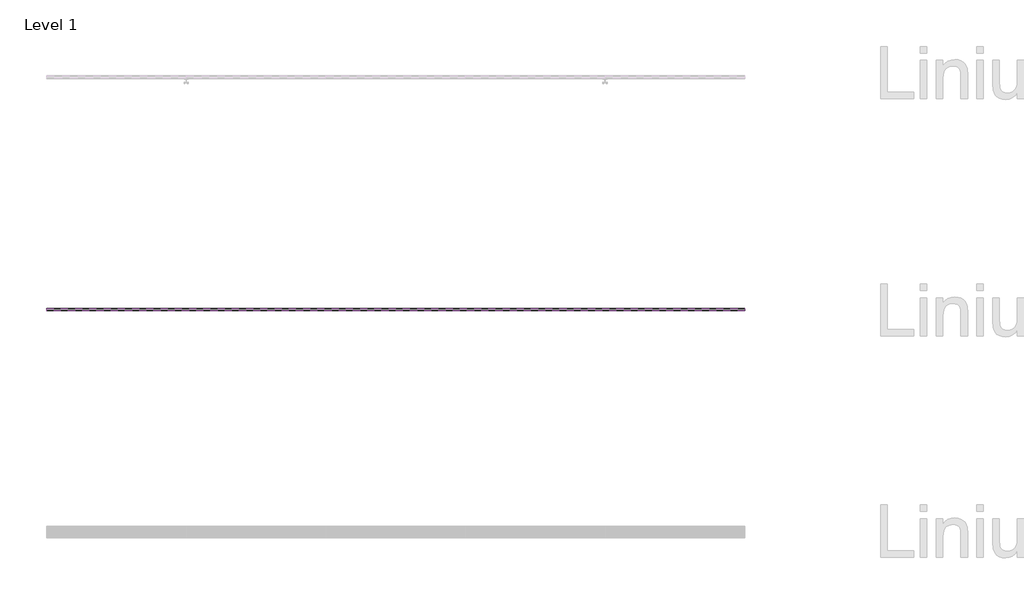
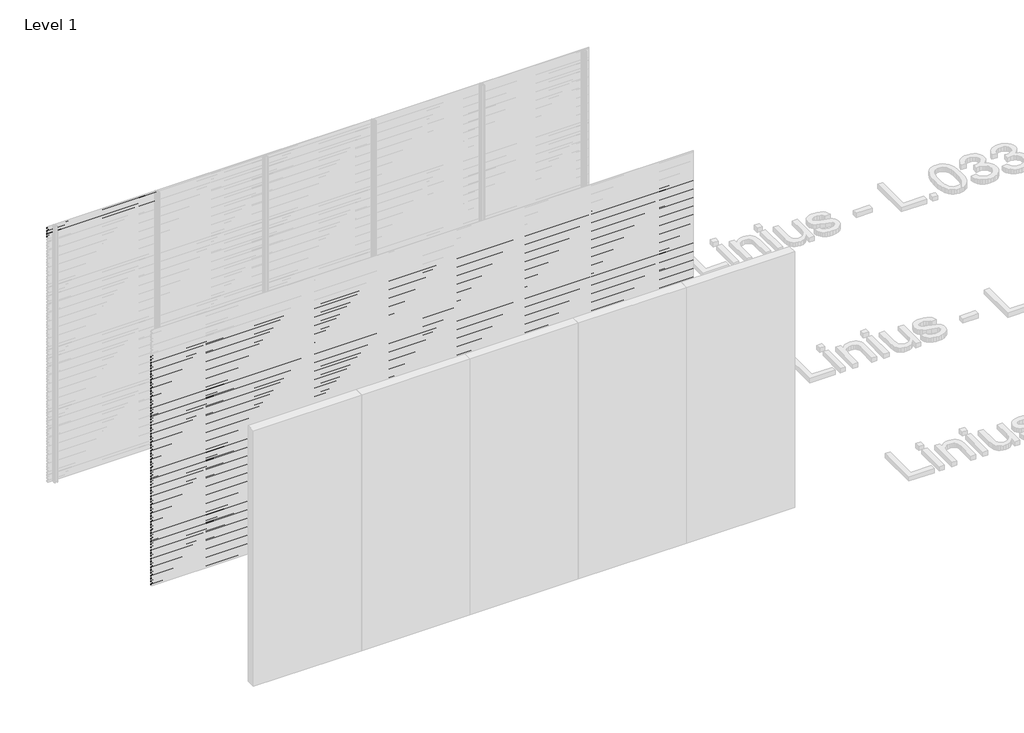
# One storey, part 30 of 507: 85 proxies.
"""IFC4 building model written with IfcOpenShell, lengths in millimetres."""

from ifc_helpers import new_model, si_unit, frame, origin, place, context, project, spatial, polyline, outline, extrude, element, save

model = new_model("IFC4")

# Units and contexts
model_context = context("Model", 3, world=origin())
ifc_project = project(units=[si_unit("LENGTHUNIT", "METRE", prefix="MILLI")], contexts=[model_context])

# Site, building, storey
site = spatial("IfcSite", under=ifc_project)
building = spatial("IfcBuilding", under=site)
storey = spatial("IfcBuildingStorey", under=building, Name="Level 1", Elevation=0.0)

# Proxies
placement = place(None, origin())
element("IfcBuildingElementProxy", 1, Name="Wall Sweeps", at=placement, inside=storey, context=model_context, shape_type="SweptSolid", body=[
    extrude(outline(polyline([(21503.4540136, 2973.0), (21503.4540136, 2959.5), (21502.2040136, 2960.2216933), (21502.2040136, 2972.2782281), (21483.0540136, 2983.3345698), (21483.0540136, 2997.0), (21484.3040136, 2997.0), (21484.3040136, 2984.0562577), (21503.4540136, 2973.0)])), frame((44966.6208097, 0.0, 0.0), z_axis=(1.0, 0.0, 0.0), x_axis=(0.0, 1.0, 0.0)), (0.0, 0.0, 1.0), 1200.0000002),
])
element("IfcBuildingElementProxy", 2, Name="Wall Sweeps", at=placement, inside=storey, context=model_context, shape_type="SweptSolid", body=[
    extrude(outline(polyline([(21503.4540136, 2939.7), (21503.4540136, 2926.2), (21502.2040136, 2926.9216933), (21502.2040136, 2938.9782281), (21483.0540136, 2950.0345698), (21483.0540136, 2963.7), (21484.3040136, 2963.7), (21484.3040136, 2950.7562577), (21503.4540136, 2939.7)])), frame((44966.6208097, 0.0, 0.0), z_axis=(1.0, 0.0, 0.0), x_axis=(0.0, 1.0, 0.0)), (0.0, 0.0, 1.0), 1200.0000002),
])
element("IfcBuildingElementProxy", 3, Name="Wall Sweeps", at=placement, inside=storey, context=model_context, shape_type="SweptSolid", body=[
    extrude(outline(polyline([(21503.4540136, 2906.4), (21503.4540136, 2892.9), (21502.2040136, 2893.6216933), (21502.2040136, 2905.6782281), (21483.0540136, 2916.7345698), (21483.0540136, 2930.4), (21484.3040136, 2930.4), (21484.3040136, 2917.4562577), (21503.4540136, 2906.4)])), frame((44966.6208097, 0.0, 0.0), z_axis=(1.0, 0.0, 0.0), x_axis=(0.0, 1.0, 0.0)), (0.0, 0.0, 1.0), 1200.0000002),
])
element("IfcBuildingElementProxy", 4, Name="Wall Sweeps", at=placement, inside=storey, context=model_context, shape_type="SweptSolid", body=[
    extrude(outline(polyline([(21503.4540136, 2873.1), (21503.4540136, 2859.6), (21502.2040136, 2860.3216933), (21502.2040136, 2872.3782281), (21483.0540136, 2883.4345698), (21483.0540136, 2897.1), (21484.3040136, 2897.1), (21484.3040136, 2884.1562577), (21503.4540136, 2873.1)])), frame((44966.6208097, 0.0, 0.0), z_axis=(1.0, 0.0, 0.0), x_axis=(0.0, 1.0, 0.0)), (0.0, 0.0, 1.0), 1200.0000002),
])
element("IfcBuildingElementProxy", 5, Name="Wall Sweeps", at=placement, inside=storey, context=model_context, shape_type="SweptSolid", body=[
    extrude(outline(polyline([(19503.4540136, 2673.3), (19503.4540136, 2659.8), (19502.2040136, 2660.5216933), (19502.2040136, 2672.5782281), (19483.0540136, 2683.6345698), (19483.0540136, 2697.3), (19484.3040136, 2697.3), (19484.3040136, 2684.3562577), (19503.4540136, 2673.3)])), frame((44966.6208097, 0.0, 0.0), z_axis=(1.0, 0.0, 0.0), x_axis=(0.0, 1.0, 0.0)), (0.0, 0.0, 1.0), 6000.0),
])
element("IfcBuildingElementProxy", 6, Name="Wall Sweeps", at=placement, inside=storey, context=model_context, shape_type="SweptSolid", body=[
    extrude(outline(polyline([(19503.4540136, 2640.0), (19503.4540136, 2626.5), (19502.2040136, 2627.2216933), (19502.2040136, 2639.2782281), (19483.0540136, 2650.3345698), (19483.0540136, 2664.0), (19484.3040136, 2664.0), (19484.3040136, 2651.0562577), (19503.4540136, 2640.0)])), frame((44966.6208097, 0.0, 0.0), z_axis=(1.0, 0.0, 0.0), x_axis=(0.0, 1.0, 0.0)), (0.0, 0.0, 1.0), 6000.0),
])
element("IfcBuildingElementProxy", 7, Name="Wall Sweeps", at=placement, inside=storey, context=model_context, shape_type="SweptSolid", body=[
    extrude(outline(polyline([(19503.4540136, 2606.7), (19503.4540136, 2593.2), (19502.2040136, 2593.9216933), (19502.2040136, 2605.9782281), (19483.0540136, 2617.0345698), (19483.0540136, 2630.7), (19484.3040136, 2630.7), (19484.3040136, 2617.7562577), (19503.4540136, 2606.7)])), frame((44966.6208097, 0.0, 0.0), z_axis=(1.0, 0.0, 0.0), x_axis=(0.0, 1.0, 0.0)), (0.0, 0.0, 1.0), 6000.0),
])
element("IfcBuildingElementProxy", 8, Name="Wall Sweeps", at=placement, inside=storey, context=model_context, shape_type="SweptSolid", body=[
    extrude(outline(polyline([(19503.4540136, 2573.4), (19503.4540136, 2559.9), (19502.2040136, 2560.6216933), (19502.2040136, 2572.6782281), (19483.0540136, 2583.7345698), (19483.0540136, 2597.4), (19484.3040136, 2597.4), (19484.3040136, 2584.4562577), (19503.4540136, 2573.4)])), frame((44966.6208097, 0.0, 0.0), z_axis=(1.0, 0.0, 0.0), x_axis=(0.0, 1.0, 0.0)), (0.0, 0.0, 1.0), 6000.0),
])
element("IfcBuildingElementProxy", 9, Name="Wall Sweeps", at=placement, inside=storey, context=model_context, shape_type="SweptSolid", body=[
    extrude(outline(polyline([(19503.4540136, 2540.1), (19503.4540136, 2526.6), (19502.2040136, 2527.3216933), (19502.2040136, 2539.3782281), (19483.0540136, 2550.4345698), (19483.0540136, 2564.1), (19484.3040136, 2564.1), (19484.3040136, 2551.1562577), (19503.4540136, 2540.1)])), frame((44966.6208097, 0.0, 0.0), z_axis=(1.0, 0.0, 0.0), x_axis=(0.0, 1.0, 0.0)), (0.0, 0.0, 1.0), 6000.0),
])
element("IfcBuildingElementProxy", 10, Name="Wall Sweeps", at=placement, inside=storey, context=model_context, shape_type="SweptSolid", body=[
    extrude(outline(polyline([(19503.4540136, 2506.8), (19503.4540136, 2493.3), (19502.2040136, 2494.0216933), (19502.2040136, 2506.0782281), (19483.0540136, 2517.1345698), (19483.0540136, 2530.8), (19484.3040136, 2530.8), (19484.3040136, 2517.8562577), (19503.4540136, 2506.8)])), frame((44966.6208097, 0.0, 0.0), z_axis=(1.0, 0.0, 0.0), x_axis=(0.0, 1.0, 0.0)), (0.0, 0.0, 1.0), 6000.0),
])
element("IfcBuildingElementProxy", 11, Name="Wall Sweeps", at=placement, inside=storey, context=model_context, shape_type="SweptSolid", body=[
    extrude(outline(polyline([(19503.4540136, 2473.5), (19503.4540136, 2460.0), (19502.2040136, 2460.7216933), (19502.2040136, 2472.7782281), (19483.0540136, 2483.8345698), (19483.0540136, 2497.5), (19484.3040136, 2497.5), (19484.3040136, 2484.5562577), (19503.4540136, 2473.5)])), frame((44966.6208097, 0.0, 0.0), z_axis=(1.0, 0.0, 0.0), x_axis=(0.0, 1.0, 0.0)), (0.0, 0.0, 1.0), 6000.0),
])
element("IfcBuildingElementProxy", 12, Name="Wall Sweeps", at=placement, inside=storey, context=model_context, shape_type="SweptSolid", body=[
    extrude(outline(polyline([(19503.4540136, 2440.2), (19503.4540136, 2426.7), (19502.2040136, 2427.4216933), (19502.2040136, 2439.4782281), (19483.0540136, 2450.5345698), (19483.0540136, 2464.2), (19484.3040136, 2464.2), (19484.3040136, 2451.2562577), (19503.4540136, 2440.2)])), frame((44966.6208097, 0.0, 0.0), z_axis=(1.0, 0.0, 0.0), x_axis=(0.0, 1.0, 0.0)), (0.0, 0.0, 1.0), 6000.0),
])
element("IfcBuildingElementProxy", 13, Name="Wall Sweeps", at=placement, inside=storey, context=model_context, shape_type="SweptSolid", body=[
    extrude(outline(polyline([(19503.4540136, 2406.9), (19503.4540136, 2393.4), (19502.2040136, 2394.1216933), (19502.2040136, 2406.1782281), (19483.0540136, 2417.2345698), (19483.0540136, 2430.9), (19484.3040136, 2430.9), (19484.3040136, 2417.9562577), (19503.4540136, 2406.9)])), frame((44966.6208097, 0.0, 0.0), z_axis=(1.0, 0.0, 0.0), x_axis=(0.0, 1.0, 0.0)), (0.0, 0.0, 1.0), 6000.0),
])
element("IfcBuildingElementProxy", 14, Name="Wall Sweeps", at=placement, inside=storey, context=model_context, shape_type="SweptSolid", body=[
    extrude(outline(polyline([(19503.4540136, 2373.6), (19503.4540136, 2360.1), (19502.2040136, 2360.8216933), (19502.2040136, 2372.8782281), (19483.0540136, 2383.9345698), (19483.0540136, 2397.6), (19484.3040136, 2397.6), (19484.3040136, 2384.6562577), (19503.4540136, 2373.6)])), frame((44966.6208097, 0.0, 0.0), z_axis=(1.0, 0.0, 0.0), x_axis=(0.0, 1.0, 0.0)), (0.0, 0.0, 1.0), 6000.0),
])
element("IfcBuildingElementProxy", 15, Name="Wall Sweeps", at=placement, inside=storey, context=model_context, shape_type="SweptSolid", body=[
    extrude(outline(polyline([(19503.4540136, 2340.3), (19503.4540136, 2326.8), (19502.2040136, 2327.5216933), (19502.2040136, 2339.5782281), (19483.0540136, 2350.6345698), (19483.0540136, 2364.3), (19484.3040136, 2364.3), (19484.3040136, 2351.3562577), (19503.4540136, 2340.3)])), frame((44966.6208097, 0.0, 0.0), z_axis=(1.0, 0.0, 0.0), x_axis=(0.0, 1.0, 0.0)), (0.0, 0.0, 1.0), 6000.0),
])
element("IfcBuildingElementProxy", 16, Name="Wall Sweeps", at=placement, inside=storey, context=model_context, shape_type="SweptSolid", body=[
    extrude(outline(polyline([(19503.4540136, 2307.0), (19503.4540136, 2293.5), (19502.2040136, 2294.2216933), (19502.2040136, 2306.2782281), (19483.0540136, 2317.3345698), (19483.0540136, 2331.0), (19484.3040136, 2331.0), (19484.3040136, 2318.0562577), (19503.4540136, 2307.0)])), frame((44966.6208097, 0.0, 0.0), z_axis=(1.0, 0.0, 0.0), x_axis=(0.0, 1.0, 0.0)), (0.0, 0.0, 1.0), 6000.0),
])
element("IfcBuildingElementProxy", 17, Name="Wall Sweeps", at=placement, inside=storey, context=model_context, shape_type="SweptSolid", body=[
    extrude(outline(polyline([(19503.4540136, 2273.7), (19503.4540136, 2260.2), (19502.2040136, 2260.9216933), (19502.2040136, 2272.9782281), (19483.0540136, 2284.0345698), (19483.0540136, 2297.7), (19484.3040136, 2297.7), (19484.3040136, 2284.7562577), (19503.4540136, 2273.7)])), frame((44966.6208097, 0.0, 0.0), z_axis=(1.0, 0.0, 0.0), x_axis=(0.0, 1.0, 0.0)), (0.0, 0.0, 1.0), 6000.0),
])
element("IfcBuildingElementProxy", 18, Name="Wall Sweeps", at=placement, inside=storey, context=model_context, shape_type="SweptSolid", body=[
    extrude(outline(polyline([(19503.4540136, 2240.4), (19503.4540136, 2226.9), (19502.2040136, 2227.6216933), (19502.2040136, 2239.6782281), (19483.0540136, 2250.7345698), (19483.0540136, 2264.4), (19484.3040136, 2264.4), (19484.3040136, 2251.4562577), (19503.4540136, 2240.4)])), frame((44966.6208097, 0.0, 0.0), z_axis=(1.0, 0.0, 0.0), x_axis=(0.0, 1.0, 0.0)), (0.0, 0.0, 1.0), 6000.0),
])
element("IfcBuildingElementProxy", 19, Name="Wall Sweeps", at=placement, inside=storey, context=model_context, shape_type="SweptSolid", body=[
    extrude(outline(polyline([(19503.4540136, 2207.1), (19503.4540136, 2193.6), (19502.2040136, 2194.3216933), (19502.2040136, 2206.3782281), (19483.0540136, 2217.4345698), (19483.0540136, 2231.1), (19484.3040136, 2231.1), (19484.3040136, 2218.1562577), (19503.4540136, 2207.1)])), frame((44966.6208097, 0.0, 0.0), z_axis=(1.0, 0.0, 0.0), x_axis=(0.0, 1.0, 0.0)), (0.0, 0.0, 1.0), 6000.0),
])
element("IfcBuildingElementProxy", 20, Name="Wall Sweeps", at=placement, inside=storey, context=model_context, shape_type="SweptSolid", body=[
    extrude(outline(polyline([(19503.4540136, 2173.8), (19503.4540136, 2160.3), (19502.2040136, 2161.0216933), (19502.2040136, 2173.0782281), (19483.0540136, 2184.1345698), (19483.0540136, 2197.8), (19484.3040136, 2197.8), (19484.3040136, 2184.8562577), (19503.4540136, 2173.8)])), frame((44966.6208097, 0.0, 0.0), z_axis=(1.0, 0.0, 0.0), x_axis=(0.0, 1.0, 0.0)), (0.0, 0.0, 1.0), 6000.0),
])
element("IfcBuildingElementProxy", 21, Name="Wall Sweeps", at=placement, inside=storey, context=model_context, shape_type="SweptSolid", body=[
    extrude(outline(polyline([(19503.4540136, 2140.5), (19503.4540136, 2127.0), (19502.2040136, 2127.7216933), (19502.2040136, 2139.7782281), (19483.0540136, 2150.8345698), (19483.0540136, 2164.5), (19484.3040136, 2164.5), (19484.3040136, 2151.5562577), (19503.4540136, 2140.5)])), frame((44966.6208097, 0.0, 0.0), z_axis=(1.0, 0.0, 0.0), x_axis=(0.0, 1.0, 0.0)), (0.0, 0.0, 1.0), 6000.0),
])
element("IfcBuildingElementProxy", 22, Name="Wall Sweeps", at=placement, inside=storey, context=model_context, shape_type="SweptSolid", body=[
    extrude(outline(polyline([(19503.4540136, 2107.2), (19503.4540136, 2093.7), (19502.2040136, 2094.4216933), (19502.2040136, 2106.4782281), (19483.0540136, 2117.5345698), (19483.0540136, 2131.2), (19484.3040136, 2131.2), (19484.3040136, 2118.2562577), (19503.4540136, 2107.2)])), frame((44966.6208097, 0.0, 0.0), z_axis=(1.0, 0.0, 0.0), x_axis=(0.0, 1.0, 0.0)), (0.0, 0.0, 1.0), 6000.0),
])
element("IfcBuildingElementProxy", 23, Name="Wall Sweeps", at=placement, inside=storey, context=model_context, shape_type="SweptSolid", body=[
    extrude(outline(polyline([(19503.4540136, 2073.9), (19503.4540136, 2060.4), (19502.2040136, 2061.1216933), (19502.2040136, 2073.1782281), (19483.0540136, 2084.2345698), (19483.0540136, 2097.9), (19484.3040136, 2097.9), (19484.3040136, 2084.9562577), (19503.4540136, 2073.9)])), frame((44966.6208097, 0.0, 0.0), z_axis=(1.0, 0.0, 0.0), x_axis=(0.0, 1.0, 0.0)), (0.0, 0.0, 1.0), 6000.0),
])
element("IfcBuildingElementProxy", 24, Name="Wall Sweeps", at=placement, inside=storey, context=model_context, shape_type="SweptSolid", body=[
    extrude(outline(polyline([(19503.4540136, 2040.6), (19503.4540136, 2027.1), (19502.2040136, 2027.8216933), (19502.2040136, 2039.8782281), (19483.0540136, 2050.9345698), (19483.0540136, 2064.6), (19484.3040136, 2064.6), (19484.3040136, 2051.6562577), (19503.4540136, 2040.6)])), frame((44966.6208097, 0.0, 0.0), z_axis=(1.0, 0.0, 0.0), x_axis=(0.0, 1.0, 0.0)), (0.0, 0.0, 1.0), 6000.0),
])
element("IfcBuildingElementProxy", 25, Name="Wall Sweeps", at=placement, inside=storey, context=model_context, shape_type="SweptSolid", body=[
    extrude(outline(polyline([(19503.4540136, 2007.3), (19503.4540136, 1993.8), (19502.2040136, 1994.5216933), (19502.2040136, 2006.5782281), (19483.0540136, 2017.6345698), (19483.0540136, 2031.3), (19484.3040136, 2031.3), (19484.3040136, 2018.3562577), (19503.4540136, 2007.3)])), frame((44966.6208097, 0.0, 0.0), z_axis=(1.0, 0.0, 0.0), x_axis=(0.0, 1.0, 0.0)), (0.0, 0.0, 1.0), 6000.0),
])
element("IfcBuildingElementProxy", 26, Name="Wall Sweeps", at=placement, inside=storey, context=model_context, shape_type="SweptSolid", body=[
    extrude(outline(polyline([(19503.4540136, 1974.0), (19503.4540136, 1960.5), (19502.2040136, 1961.2216933), (19502.2040136, 1973.2782281), (19483.0540136, 1984.3345698), (19483.0540136, 1998.0), (19484.3040136, 1998.0), (19484.3040136, 1985.0562577), (19503.4540136, 1974.0)])), frame((44966.6208097, 0.0, 0.0), z_axis=(1.0, 0.0, 0.0), x_axis=(0.0, 1.0, 0.0)), (0.0, 0.0, 1.0), 6000.0),
])
element("IfcBuildingElementProxy", 27, Name="Wall Sweeps", at=placement, inside=storey, context=model_context, shape_type="SweptSolid", body=[
    extrude(outline(polyline([(19503.4540136, 1940.7), (19503.4540136, 1927.2), (19502.2040136, 1927.9216933), (19502.2040136, 1939.9782281), (19483.0540136, 1951.0345698), (19483.0540136, 1964.7), (19484.3040136, 1964.7), (19484.3040136, 1951.7562577), (19503.4540136, 1940.7)])), frame((44966.6208097, 0.0, 0.0), z_axis=(1.0, 0.0, 0.0), x_axis=(0.0, 1.0, 0.0)), (0.0, 0.0, 1.0), 6000.0),
])
element("IfcBuildingElementProxy", 28, Name="Wall Sweeps", at=placement, inside=storey, context=model_context, shape_type="SweptSolid", body=[
    extrude(outline(polyline([(19503.4540136, 1907.4), (19503.4540136, 1893.9), (19502.2040136, 1894.6216933), (19502.2040136, 1906.6782281), (19483.0540136, 1917.7345698), (19483.0540136, 1931.4), (19484.3040136, 1931.4), (19484.3040136, 1918.4562577), (19503.4540136, 1907.4)])), frame((44966.6208097, 0.0, 0.0), z_axis=(1.0, 0.0, 0.0), x_axis=(0.0, 1.0, 0.0)), (0.0, 0.0, 1.0), 6000.0),
])
element("IfcBuildingElementProxy", 29, Name="Wall Sweeps", at=placement, inside=storey, context=model_context, shape_type="SweptSolid", body=[
    extrude(outline(polyline([(19503.4540136, 1874.1), (19503.4540136, 1860.6), (19502.2040136, 1861.3216933), (19502.2040136, 1873.3782281), (19483.0540136, 1884.4345698), (19483.0540136, 1898.1), (19484.3040136, 1898.1), (19484.3040136, 1885.1562577), (19503.4540136, 1874.1)])), frame((44966.6208097, 0.0, 0.0), z_axis=(1.0, 0.0, 0.0), x_axis=(0.0, 1.0, 0.0)), (0.0, 0.0, 1.0), 6000.0),
])
element("IfcBuildingElementProxy", 30, Name="Wall Sweeps", at=placement, inside=storey, context=model_context, shape_type="SweptSolid", body=[
    extrude(outline(polyline([(19503.4540136, 1840.8), (19503.4540136, 1827.3), (19502.2040136, 1828.0216933), (19502.2040136, 1840.0782281), (19483.0540136, 1851.1345698), (19483.0540136, 1864.8), (19484.3040136, 1864.8), (19484.3040136, 1851.8562577), (19503.4540136, 1840.8)])), frame((44966.6208097, 0.0, 0.0), z_axis=(1.0, 0.0, 0.0), x_axis=(0.0, 1.0, 0.0)), (0.0, 0.0, 1.0), 6000.0),
])
element("IfcBuildingElementProxy", 31, Name="Wall Sweeps", at=placement, inside=storey, context=model_context, shape_type="SweptSolid", body=[
    extrude(outline(polyline([(19503.4540136, 1807.5), (19503.4540136, 1794.0), (19502.2040136, 1794.7216933), (19502.2040136, 1806.7782281), (19483.0540136, 1817.8345698), (19483.0540136, 1831.5), (19484.3040136, 1831.5), (19484.3040136, 1818.5562577), (19503.4540136, 1807.5)])), frame((44966.6208097, 0.0, 0.0), z_axis=(1.0, 0.0, 0.0), x_axis=(0.0, 1.0, 0.0)), (0.0, 0.0, 1.0), 6000.0),
])
element("IfcBuildingElementProxy", 32, Name="Wall Sweeps", at=placement, inside=storey, context=model_context, shape_type="SweptSolid", body=[
    extrude(outline(polyline([(19503.4540136, 1774.2), (19503.4540136, 1760.7), (19502.2040136, 1761.4216933), (19502.2040136, 1773.4782281), (19483.0540136, 1784.5345698), (19483.0540136, 1798.2), (19484.3040136, 1798.2), (19484.3040136, 1785.2562577), (19503.4540136, 1774.2)])), frame((44966.6208097, 0.0, 0.0), z_axis=(1.0, 0.0, 0.0), x_axis=(0.0, 1.0, 0.0)), (0.0, 0.0, 1.0), 6000.0),
])
element("IfcBuildingElementProxy", 33, Name="Wall Sweeps", at=placement, inside=storey, context=model_context, shape_type="SweptSolid", body=[
    extrude(outline(polyline([(19503.4540136, 1740.9), (19503.4540136, 1727.4), (19502.2040136, 1728.1216933), (19502.2040136, 1740.1782281), (19483.0540136, 1751.2345698), (19483.0540136, 1764.9), (19484.3040136, 1764.9), (19484.3040136, 1751.9562577), (19503.4540136, 1740.9)])), frame((44966.6208097, 0.0, 0.0), z_axis=(1.0, 0.0, 0.0), x_axis=(0.0, 1.0, 0.0)), (0.0, 0.0, 1.0), 6000.0),
])
element("IfcBuildingElementProxy", 34, Name="Wall Sweeps", at=placement, inside=storey, context=model_context, shape_type="SweptSolid", body=[
    extrude(outline(polyline([(19503.4540136, 1707.6), (19503.4540136, 1694.1), (19502.2040136, 1694.8216933), (19502.2040136, 1706.8782281), (19483.0540136, 1717.9345698), (19483.0540136, 1731.6), (19484.3040136, 1731.6), (19484.3040136, 1718.6562577), (19503.4540136, 1707.6)])), frame((44966.6208097, 0.0, 0.0), z_axis=(1.0, 0.0, 0.0), x_axis=(0.0, 1.0, 0.0)), (0.0, 0.0, 1.0), 6000.0),
])
element("IfcBuildingElementProxy", 35, Name="Wall Sweeps", at=placement, inside=storey, context=model_context, shape_type="SweptSolid", body=[
    extrude(outline(polyline([(19503.4540136, 1674.3), (19503.4540136, 1660.8), (19502.2040136, 1661.5216933), (19502.2040136, 1673.5782281), (19483.0540136, 1684.6345698), (19483.0540136, 1698.3), (19484.3040136, 1698.3), (19484.3040136, 1685.3562577), (19503.4540136, 1674.3)])), frame((44966.6208097, 0.0, 0.0), z_axis=(1.0, 0.0, 0.0), x_axis=(0.0, 1.0, 0.0)), (0.0, 0.0, 1.0), 6000.0),
])
element("IfcBuildingElementProxy", 36, Name="Wall Sweeps", at=placement, inside=storey, context=model_context, shape_type="SweptSolid", body=[
    extrude(outline(polyline([(19503.4540136, 1641.0), (19503.4540136, 1627.5), (19502.2040136, 1628.2216933), (19502.2040136, 1640.2782281), (19483.0540136, 1651.3345698), (19483.0540136, 1665.0), (19484.3040136, 1665.0), (19484.3040136, 1652.0562577), (19503.4540136, 1641.0)])), frame((44966.6208097, 0.0, 0.0), z_axis=(1.0, 0.0, 0.0), x_axis=(0.0, 1.0, 0.0)), (0.0, 0.0, 1.0), 6000.0),
])
element("IfcBuildingElementProxy", 37, Name="Wall Sweeps", at=placement, inside=storey, context=model_context, shape_type="SweptSolid", body=[
    extrude(outline(polyline([(19503.4540136, 1607.7), (19503.4540136, 1594.2), (19502.2040136, 1594.9216933), (19502.2040136, 1606.9782281), (19483.0540136, 1618.0345698), (19483.0540136, 1631.7), (19484.3040136, 1631.7), (19484.3040136, 1618.7562577), (19503.4540136, 1607.7)])), frame((44966.6208097, 0.0, 0.0), z_axis=(1.0, 0.0, 0.0), x_axis=(0.0, 1.0, 0.0)), (0.0, 0.0, 1.0), 6000.0),
])
element("IfcBuildingElementProxy", 38, Name="Wall Sweeps", at=placement, inside=storey, context=model_context, shape_type="SweptSolid", body=[
    extrude(outline(polyline([(19503.4540136, 1574.4), (19503.4540136, 1560.9), (19502.2040136, 1561.6216933), (19502.2040136, 1573.6782281), (19483.0540136, 1584.7345698), (19483.0540136, 1598.4), (19484.3040136, 1598.4), (19484.3040136, 1585.4562577), (19503.4540136, 1574.4)])), frame((44966.6208097, 0.0, 0.0), z_axis=(1.0, 0.0, 0.0), x_axis=(0.0, 1.0, 0.0)), (0.0, 0.0, 1.0), 6000.0),
])
element("IfcBuildingElementProxy", 39, Name="Wall Sweeps", at=placement, inside=storey, context=model_context, shape_type="SweptSolid", body=[
    extrude(outline(polyline([(19503.4540136, 1541.1), (19503.4540136, 1527.6), (19502.2040136, 1528.3216933), (19502.2040136, 1540.3782281), (19483.0540136, 1551.4345698), (19483.0540136, 1565.1), (19484.3040136, 1565.1), (19484.3040136, 1552.1562577), (19503.4540136, 1541.1)])), frame((44966.6208097, 0.0, 0.0), z_axis=(1.0, 0.0, 0.0), x_axis=(0.0, 1.0, 0.0)), (0.0, 0.0, 1.0), 6000.0),
])
element("IfcBuildingElementProxy", 40, Name="Wall Sweeps", at=placement, inside=storey, context=model_context, shape_type="SweptSolid", body=[
    extrude(outline(polyline([(19503.4540136, 1507.8), (19503.4540136, 1494.3), (19502.2040136, 1495.0216933), (19502.2040136, 1507.0782281), (19483.0540136, 1518.1345698), (19483.0540136, 1531.8), (19484.3040136, 1531.8), (19484.3040136, 1518.8562577), (19503.4540136, 1507.8)])), frame((44966.6208097, 0.0, 0.0), z_axis=(1.0, 0.0, 0.0), x_axis=(0.0, 1.0, 0.0)), (0.0, 0.0, 1.0), 6000.0),
])
element("IfcBuildingElementProxy", 41, Name="Wall Sweeps", at=placement, inside=storey, context=model_context, shape_type="SweptSolid", body=[
    extrude(outline(polyline([(19503.4540136, 1474.5), (19503.4540136, 1461.0), (19502.2040136, 1461.7216933), (19502.2040136, 1473.7782281), (19483.0540136, 1484.8345698), (19483.0540136, 1498.5), (19484.3040136, 1498.5), (19484.3040136, 1485.5562577), (19503.4540136, 1474.5)])), frame((44966.6208097, 0.0, 0.0), z_axis=(1.0, 0.0, 0.0), x_axis=(0.0, 1.0, 0.0)), (0.0, 0.0, 1.0), 6000.0),
])
element("IfcBuildingElementProxy", 42, Name="Wall Sweeps", at=placement, inside=storey, context=model_context, shape_type="SweptSolid", body=[
    extrude(outline(polyline([(19503.4540136, 1441.2), (19503.4540136, 1427.7), (19502.2040136, 1428.4216933), (19502.2040136, 1440.4782281), (19483.0540136, 1451.5345698), (19483.0540136, 1465.2), (19484.3040136, 1465.2), (19484.3040136, 1452.2562577), (19503.4540136, 1441.2)])), frame((44966.6208097, 0.0, 0.0), z_axis=(1.0, 0.0, 0.0), x_axis=(0.0, 1.0, 0.0)), (0.0, 0.0, 1.0), 6000.0),
])
element("IfcBuildingElementProxy", 43, Name="Wall Sweeps", at=placement, inside=storey, context=model_context, shape_type="SweptSolid", body=[
    extrude(outline(polyline([(19503.4540136, 1407.9), (19503.4540136, 1394.4), (19502.2040136, 1395.1216933), (19502.2040136, 1407.1782281), (19483.0540136, 1418.2345698), (19483.0540136, 1431.9), (19484.3040136, 1431.9), (19484.3040136, 1418.9562577), (19503.4540136, 1407.9)])), frame((44966.6208097, 0.0, 0.0), z_axis=(1.0, 0.0, 0.0), x_axis=(0.0, 1.0, 0.0)), (0.0, 0.0, 1.0), 6000.0),
])
element("IfcBuildingElementProxy", 44, Name="Wall Sweeps", at=placement, inside=storey, context=model_context, shape_type="SweptSolid", body=[
    extrude(outline(polyline([(19503.4540136, 1374.6), (19503.4540136, 1361.1), (19502.2040136, 1361.8216933), (19502.2040136, 1373.8782281), (19483.0540136, 1384.9345698), (19483.0540136, 1398.6), (19484.3040136, 1398.6), (19484.3040136, 1385.6562577), (19503.4540136, 1374.6)])), frame((44966.6208097, 0.0, 0.0), z_axis=(1.0, 0.0, 0.0), x_axis=(0.0, 1.0, 0.0)), (0.0, 0.0, 1.0), 6000.0),
])
element("IfcBuildingElementProxy", 45, Name="Wall Sweeps", at=placement, inside=storey, context=model_context, shape_type="SweptSolid", body=[
    extrude(outline(polyline([(19503.4540136, 1341.3), (19503.4540136, 1327.8), (19502.2040136, 1328.5216933), (19502.2040136, 1340.5782281), (19483.0540136, 1351.6345698), (19483.0540136, 1365.3), (19484.3040136, 1365.3), (19484.3040136, 1352.3562577), (19503.4540136, 1341.3)])), frame((44966.6208097, 0.0, 0.0), z_axis=(1.0, 0.0, 0.0), x_axis=(0.0, 1.0, 0.0)), (0.0, 0.0, 1.0), 6000.0),
])
element("IfcBuildingElementProxy", 46, Name="Wall Sweeps", at=placement, inside=storey, context=model_context, shape_type="SweptSolid", body=[
    extrude(outline(polyline([(19503.4540136, 1308.0), (19503.4540136, 1294.5), (19502.2040136, 1295.2216933), (19502.2040136, 1307.2782281), (19483.0540136, 1318.3345698), (19483.0540136, 1332.0), (19484.3040136, 1332.0), (19484.3040136, 1319.0562577), (19503.4540136, 1308.0)])), frame((44966.6208097, 0.0, 0.0), z_axis=(1.0, 0.0, 0.0), x_axis=(0.0, 1.0, 0.0)), (0.0, 0.0, 1.0), 6000.0),
])
element("IfcBuildingElementProxy", 47, Name="Wall Sweeps", at=placement, inside=storey, context=model_context, shape_type="SweptSolid", body=[
    extrude(outline(polyline([(19503.4540136, 1274.7), (19503.4540136, 1261.2), (19502.2040136, 1261.9216933), (19502.2040136, 1273.9782281), (19483.0540136, 1285.0345698), (19483.0540136, 1298.7), (19484.3040136, 1298.7), (19484.3040136, 1285.7562577), (19503.4540136, 1274.7)])), frame((44966.6208097, 0.0, 0.0), z_axis=(1.0, 0.0, 0.0), x_axis=(0.0, 1.0, 0.0)), (0.0, 0.0, 1.0), 6000.0),
])
element("IfcBuildingElementProxy", 48, Name="Wall Sweeps", at=placement, inside=storey, context=model_context, shape_type="SweptSolid", body=[
    extrude(outline(polyline([(19503.4540136, 1241.4), (19503.4540136, 1227.9), (19502.2040136, 1228.6216933), (19502.2040136, 1240.6782281), (19483.0540136, 1251.7345698), (19483.0540136, 1265.4), (19484.3040136, 1265.4), (19484.3040136, 1252.4562577), (19503.4540136, 1241.4)])), frame((44966.6208097, 0.0, 0.0), z_axis=(1.0, 0.0, 0.0), x_axis=(0.0, 1.0, 0.0)), (0.0, 0.0, 1.0), 6000.0),
])
element("IfcBuildingElementProxy", 49, Name="Wall Sweeps", at=placement, inside=storey, context=model_context, shape_type="SweptSolid", body=[
    extrude(outline(polyline([(19503.4540136, 1208.1), (19503.4540136, 1194.6), (19502.2040136, 1195.3216933), (19502.2040136, 1207.3782281), (19483.0540136, 1218.4345698), (19483.0540136, 1232.1), (19484.3040136, 1232.1), (19484.3040136, 1219.1562577), (19503.4540136, 1208.1)])), frame((44966.6208097, 0.0, 0.0), z_axis=(1.0, 0.0, 0.0), x_axis=(0.0, 1.0, 0.0)), (0.0, 0.0, 1.0), 6000.0),
])
element("IfcBuildingElementProxy", 50, Name="Wall Sweeps", at=placement, inside=storey, context=model_context, shape_type="SweptSolid", body=[
    extrude(outline(polyline([(19503.4540136, 1174.8), (19503.4540136, 1161.3), (19502.2040136, 1162.0216933), (19502.2040136, 1174.0782281), (19483.0540136, 1185.1345698), (19483.0540136, 1198.8), (19484.3040136, 1198.8), (19484.3040136, 1185.8562577), (19503.4540136, 1174.8)])), frame((44966.6208097, 0.0, 0.0), z_axis=(1.0, 0.0, 0.0), x_axis=(0.0, 1.0, 0.0)), (0.0, 0.0, 1.0), 6000.0),
])
element("IfcBuildingElementProxy", 51, Name="Wall Sweeps", at=placement, inside=storey, context=model_context, shape_type="SweptSolid", body=[
    extrude(outline(polyline([(19503.4540136, 1141.5), (19503.4540136, 1128.0), (19502.2040136, 1128.7216933), (19502.2040136, 1140.7782281), (19483.0540136, 1151.8345698), (19483.0540136, 1165.5), (19484.3040136, 1165.5), (19484.3040136, 1152.5562577), (19503.4540136, 1141.5)])), frame((44966.6208097, 0.0, 0.0), z_axis=(1.0, 0.0, 0.0), x_axis=(0.0, 1.0, 0.0)), (0.0, 0.0, 1.0), 6000.0),
])
element("IfcBuildingElementProxy", 52, Name="Wall Sweeps", at=placement, inside=storey, context=model_context, shape_type="SweptSolid", body=[
    extrude(outline(polyline([(19503.4540136, 1108.2), (19503.4540136, 1094.7), (19502.2040136, 1095.4216933), (19502.2040136, 1107.4782281), (19483.0540136, 1118.5345698), (19483.0540136, 1132.2), (19484.3040136, 1132.2), (19484.3040136, 1119.2562577), (19503.4540136, 1108.2)])), frame((44966.6208097, 0.0, 0.0), z_axis=(1.0, 0.0, 0.0), x_axis=(0.0, 1.0, 0.0)), (0.0, 0.0, 1.0), 6000.0),
])
element("IfcBuildingElementProxy", 53, Name="Wall Sweeps", at=placement, inside=storey, context=model_context, shape_type="SweptSolid", body=[
    extrude(outline(polyline([(19503.4540136, 1074.9), (19503.4540136, 1061.4), (19502.2040136, 1062.1216933), (19502.2040136, 1074.1782281), (19483.0540136, 1085.2345698), (19483.0540136, 1098.9), (19484.3040136, 1098.9), (19484.3040136, 1085.9562577), (19503.4540136, 1074.9)])), frame((44966.6208097, 0.0, 0.0), z_axis=(1.0, 0.0, 0.0), x_axis=(0.0, 1.0, 0.0)), (0.0, 0.0, 1.0), 6000.0),
])
element("IfcBuildingElementProxy", 54, Name="Wall Sweeps", at=placement, inside=storey, context=model_context, shape_type="SweptSolid", body=[
    extrude(outline(polyline([(19503.4540136, 1041.6), (19503.4540136, 1028.1), (19502.2040136, 1028.8216933), (19502.2040136, 1040.8782281), (19483.0540136, 1051.9345698), (19483.0540136, 1065.6), (19484.3040136, 1065.6), (19484.3040136, 1052.6562577), (19503.4540136, 1041.6)])), frame((44966.6208097, 0.0, 0.0), z_axis=(1.0, 0.0, 0.0), x_axis=(0.0, 1.0, 0.0)), (0.0, 0.0, 1.0), 6000.0),
])
element("IfcBuildingElementProxy", 55, Name="Wall Sweeps", at=placement, inside=storey, context=model_context, shape_type="SweptSolid", body=[
    extrude(outline(polyline([(19503.4540136, 1008.3), (19503.4540136, 994.8), (19502.2040136, 995.5216933), (19502.2040136, 1007.5782281), (19483.0540136, 1018.6345698), (19483.0540136, 1032.3), (19484.3040136, 1032.3), (19484.3040136, 1019.3562577), (19503.4540136, 1008.3)])), frame((44966.6208097, 0.0, 0.0), z_axis=(1.0, 0.0, 0.0), x_axis=(0.0, 1.0, 0.0)), (0.0, 0.0, 1.0), 6000.0),
])
element("IfcBuildingElementProxy", 56, Name="Wall Sweeps", at=placement, inside=storey, context=model_context, shape_type="SweptSolid", body=[
    extrude(outline(polyline([(19503.4540136, 975.0), (19503.4540136, 961.5), (19502.2040136, 962.2216933), (19502.2040136, 974.2782281), (19483.0540136, 985.3345698), (19483.0540136, 999.0), (19484.3040136, 999.0), (19484.3040136, 986.0562577), (19503.4540136, 975.0)])), frame((44966.6208097, 0.0, 0.0), z_axis=(1.0, 0.0, 0.0), x_axis=(0.0, 1.0, 0.0)), (0.0, 0.0, 1.0), 6000.0),
])
element("IfcBuildingElementProxy", 57, Name="Wall Sweeps", at=placement, inside=storey, context=model_context, shape_type="SweptSolid", body=[
    extrude(outline(polyline([(19503.4540136, 941.7), (19503.4540136, 928.2), (19502.2040136, 928.9216933), (19502.2040136, 940.9782281), (19483.0540136, 952.0345698), (19483.0540136, 965.7), (19484.3040136, 965.7), (19484.3040136, 952.7562577), (19503.4540136, 941.7)])), frame((44966.6208097, 0.0, 0.0), z_axis=(1.0, 0.0, 0.0), x_axis=(0.0, 1.0, 0.0)), (0.0, 0.0, 1.0), 6000.0),
])
element("IfcBuildingElementProxy", 58, Name="Wall Sweeps", at=placement, inside=storey, context=model_context, shape_type="SweptSolid", body=[
    extrude(outline(polyline([(19503.4540136, 908.4), (19503.4540136, 894.9), (19502.2040136, 895.6216933), (19502.2040136, 907.6782281), (19483.0540136, 918.7345698), (19483.0540136, 932.4), (19484.3040136, 932.4), (19484.3040136, 919.4562577), (19503.4540136, 908.4)])), frame((44966.6208097, 0.0, 0.0), z_axis=(1.0, 0.0, 0.0), x_axis=(0.0, 1.0, 0.0)), (0.0, 0.0, 1.0), 6000.0),
])
element("IfcBuildingElementProxy", 59, Name="Wall Sweeps", at=placement, inside=storey, context=model_context, shape_type="SweptSolid", body=[
    extrude(outline(polyline([(19503.4540136, 875.1), (19503.4540136, 861.6), (19502.2040136, 862.3216933), (19502.2040136, 874.3782281), (19483.0540136, 885.4345698), (19483.0540136, 899.1), (19484.3040136, 899.1), (19484.3040136, 886.1562577), (19503.4540136, 875.1)])), frame((44966.6208097, 0.0, 0.0), z_axis=(1.0, 0.0, 0.0), x_axis=(0.0, 1.0, 0.0)), (0.0, 0.0, 1.0), 6000.0),
])
element("IfcBuildingElementProxy", 60, Name="Wall Sweeps", at=placement, inside=storey, context=model_context, shape_type="SweptSolid", body=[
    extrude(outline(polyline([(19503.4540136, 841.8), (19503.4540136, 828.3), (19502.2040136, 829.0216933), (19502.2040136, 841.0782281), (19483.0540136, 852.1345698), (19483.0540136, 865.8), (19484.3040136, 865.8), (19484.3040136, 852.8562577), (19503.4540136, 841.8)])), frame((44966.6208097, 0.0, 0.0), z_axis=(1.0, 0.0, 0.0), x_axis=(0.0, 1.0, 0.0)), (0.0, 0.0, 1.0), 6000.0),
])
element("IfcBuildingElementProxy", 61, Name="Wall Sweeps", at=placement, inside=storey, context=model_context, shape_type="SweptSolid", body=[
    extrude(outline(polyline([(19503.4540136, 808.5), (19503.4540136, 795.0), (19502.2040136, 795.7216933), (19502.2040136, 807.7782281), (19483.0540136, 818.8345698), (19483.0540136, 832.5), (19484.3040136, 832.5), (19484.3040136, 819.5562577), (19503.4540136, 808.5)])), frame((44966.6208097, 0.0, 0.0), z_axis=(1.0, 0.0, 0.0), x_axis=(0.0, 1.0, 0.0)), (0.0, 0.0, 1.0), 6000.0),
])
element("IfcBuildingElementProxy", 62, Name="Wall Sweeps", at=placement, inside=storey, context=model_context, shape_type="SweptSolid", body=[
    extrude(outline(polyline([(19503.4540136, 775.2), (19503.4540136, 761.7), (19502.2040136, 762.4216933), (19502.2040136, 774.4782281), (19483.0540136, 785.5345698), (19483.0540136, 799.2), (19484.3040136, 799.2), (19484.3040136, 786.2562577), (19503.4540136, 775.2)])), frame((44966.6208097, 0.0, 0.0), z_axis=(1.0, 0.0, 0.0), x_axis=(0.0, 1.0, 0.0)), (0.0, 0.0, 1.0), 6000.0),
])
element("IfcBuildingElementProxy", 63, Name="Wall Sweeps", at=placement, inside=storey, context=model_context, shape_type="SweptSolid", body=[
    extrude(outline(polyline([(19503.4540136, 741.9), (19503.4540136, 728.4), (19502.2040136, 729.1216933), (19502.2040136, 741.1782281), (19483.0540136, 752.2345698), (19483.0540136, 765.9), (19484.3040136, 765.9), (19484.3040136, 752.9562577), (19503.4540136, 741.9)])), frame((44966.6208097, 0.0, 0.0), z_axis=(1.0, 0.0, 0.0), x_axis=(0.0, 1.0, 0.0)), (0.0, 0.0, 1.0), 6000.0),
])
element("IfcBuildingElementProxy", 64, Name="Wall Sweeps", at=placement, inside=storey, context=model_context, shape_type="SweptSolid", body=[
    extrude(outline(polyline([(19503.4540136, 708.6), (19503.4540136, 695.1), (19502.2040136, 695.8216933), (19502.2040136, 707.8782281), (19483.0540136, 718.9345698), (19483.0540136, 732.6), (19484.3040136, 732.6), (19484.3040136, 719.6562577), (19503.4540136, 708.6)])), frame((44966.6208097, 0.0, 0.0), z_axis=(1.0, 0.0, 0.0), x_axis=(0.0, 1.0, 0.0)), (0.0, 0.0, 1.0), 6000.0),
])
element("IfcBuildingElementProxy", 65, Name="Wall Sweeps", at=placement, inside=storey, context=model_context, shape_type="SweptSolid", body=[
    extrude(outline(polyline([(19503.4540136, 675.3), (19503.4540136, 661.8), (19502.2040136, 662.5216933), (19502.2040136, 674.5782281), (19483.0540136, 685.6345698), (19483.0540136, 699.3), (19484.3040136, 699.3), (19484.3040136, 686.3562577), (19503.4540136, 675.3)])), frame((44966.6208097, 0.0, 0.0), z_axis=(1.0, 0.0, 0.0), x_axis=(0.0, 1.0, 0.0)), (0.0, 0.0, 1.0), 6000.0),
])
element("IfcBuildingElementProxy", 66, Name="Wall Sweeps", at=placement, inside=storey, context=model_context, shape_type="SweptSolid", body=[
    extrude(outline(polyline([(19503.4540136, 642.0), (19503.4540136, 628.5), (19502.2040136, 629.2216933), (19502.2040136, 641.2782281), (19483.0540136, 652.3345698), (19483.0540136, 666.0), (19484.3040136, 666.0), (19484.3040136, 653.0562577), (19503.4540136, 642.0)])), frame((44966.6208097, 0.0, 0.0), z_axis=(1.0, 0.0, 0.0), x_axis=(0.0, 1.0, 0.0)), (0.0, 0.0, 1.0), 6000.0),
])
element("IfcBuildingElementProxy", 67, Name="Wall Sweeps", at=placement, inside=storey, context=model_context, shape_type="SweptSolid", body=[
    extrude(outline(polyline([(19503.4540136, 608.7), (19503.4540136, 595.2), (19502.2040136, 595.9216933), (19502.2040136, 607.9782281), (19483.0540136, 619.0345698), (19483.0540136, 632.7), (19484.3040136, 632.7), (19484.3040136, 619.7562577), (19503.4540136, 608.7)])), frame((44966.6208097, 0.0, 0.0), z_axis=(1.0, 0.0, 0.0), x_axis=(0.0, 1.0, 0.0)), (0.0, 0.0, 1.0), 6000.0),
])
element("IfcBuildingElementProxy", 68, Name="Wall Sweeps", at=placement, inside=storey, context=model_context, shape_type="SweptSolid", body=[
    extrude(outline(polyline([(19503.4540136, 575.4), (19503.4540136, 561.9), (19502.2040136, 562.6216933), (19502.2040136, 574.6782281), (19483.0540136, 585.7345698), (19483.0540136, 599.4), (19484.3040136, 599.4), (19484.3040136, 586.4562577), (19503.4540136, 575.4)])), frame((44966.6208097, 0.0, 0.0), z_axis=(1.0, 0.0, 0.0), x_axis=(0.0, 1.0, 0.0)), (0.0, 0.0, 1.0), 6000.0),
])
element("IfcBuildingElementProxy", 69, Name="Wall Sweeps", at=placement, inside=storey, context=model_context, shape_type="SweptSolid", body=[
    extrude(outline(polyline([(19503.4540136, 542.1), (19503.4540136, 528.6), (19502.2040136, 529.3216933), (19502.2040136, 541.3782281), (19483.0540136, 552.4345698), (19483.0540136, 566.1), (19484.3040136, 566.1), (19484.3040136, 553.1562577), (19503.4540136, 542.1)])), frame((44966.6208097, 0.0, 0.0), z_axis=(1.0, 0.0, 0.0), x_axis=(0.0, 1.0, 0.0)), (0.0, 0.0, 1.0), 6000.0),
])
element("IfcBuildingElementProxy", 70, Name="Wall Sweeps", at=placement, inside=storey, context=model_context, shape_type="SweptSolid", body=[
    extrude(outline(polyline([(19503.4540136, 508.8), (19503.4540136, 495.3), (19502.2040136, 496.0216933), (19502.2040136, 508.0782281), (19483.0540136, 519.1345698), (19483.0540136, 532.8), (19484.3040136, 532.8), (19484.3040136, 519.8562577), (19503.4540136, 508.8)])), frame((44966.6208097, 0.0, 0.0), z_axis=(1.0, 0.0, 0.0), x_axis=(0.0, 1.0, 0.0)), (0.0, 0.0, 1.0), 6000.0),
])
element("IfcBuildingElementProxy", 71, Name="Wall Sweeps", at=placement, inside=storey, context=model_context, shape_type="SweptSolid", body=[
    extrude(outline(polyline([(19503.4540136, 475.5), (19503.4540136, 462.0), (19502.2040136, 462.7216933), (19502.2040136, 474.7782281), (19483.0540136, 485.8345698), (19483.0540136, 499.5), (19484.3040136, 499.5), (19484.3040136, 486.5562577), (19503.4540136, 475.5)])), frame((44966.6208097, 0.0, 0.0), z_axis=(1.0, 0.0, 0.0), x_axis=(0.0, 1.0, 0.0)), (0.0, 0.0, 1.0), 6000.0),
])
element("IfcBuildingElementProxy", 72, Name="Wall Sweeps", at=placement, inside=storey, context=model_context, shape_type="SweptSolid", body=[
    extrude(outline(polyline([(19503.4540136, 442.2), (19503.4540136, 428.7), (19502.2040136, 429.4216933), (19502.2040136, 441.4782281), (19483.0540136, 452.5345698), (19483.0540136, 466.2), (19484.3040136, 466.2), (19484.3040136, 453.2562577), (19503.4540136, 442.2)])), frame((44966.6208097, 0.0, 0.0), z_axis=(1.0, 0.0, 0.0), x_axis=(0.0, 1.0, 0.0)), (0.0, 0.0, 1.0), 6000.0),
])
element("IfcBuildingElementProxy", 73, Name="Wall Sweeps", at=placement, inside=storey, context=model_context, shape_type="SweptSolid", body=[
    extrude(outline(polyline([(19503.4540136, 408.9), (19503.4540136, 395.4), (19502.2040136, 396.1216933), (19502.2040136, 408.1782281), (19483.0540136, 419.2345698), (19483.0540136, 432.9), (19484.3040136, 432.9), (19484.3040136, 419.9562577), (19503.4540136, 408.9)])), frame((44966.6208097, 0.0, 0.0), z_axis=(1.0, 0.0, 0.0), x_axis=(0.0, 1.0, 0.0)), (0.0, 0.0, 1.0), 6000.0),
])
element("IfcBuildingElementProxy", 74, Name="Wall Sweeps", at=placement, inside=storey, context=model_context, shape_type="SweptSolid", body=[
    extrude(outline(polyline([(19503.4540136, 375.6), (19503.4540136, 362.1), (19502.2040136, 362.8216933), (19502.2040136, 374.8782281), (19483.0540136, 385.9345698), (19483.0540136, 399.6), (19484.3040136, 399.6), (19484.3040136, 386.6562577), (19503.4540136, 375.6)])), frame((44966.6208097, 0.0, 0.0), z_axis=(1.0, 0.0, 0.0), x_axis=(0.0, 1.0, 0.0)), (0.0, 0.0, 1.0), 6000.0),
])
element("IfcBuildingElementProxy", 75, Name="Wall Sweeps", at=placement, inside=storey, context=model_context, shape_type="SweptSolid", body=[
    extrude(outline(polyline([(19503.4540136, 342.3), (19503.4540136, 328.8), (19502.2040136, 329.5216933), (19502.2040136, 341.5782281), (19483.0540136, 352.6345698), (19483.0540136, 366.3), (19484.3040136, 366.3), (19484.3040136, 353.3562577), (19503.4540136, 342.3)])), frame((44966.6208097, 0.0, 0.0), z_axis=(1.0, 0.0, 0.0), x_axis=(0.0, 1.0, 0.0)), (0.0, 0.0, 1.0), 6000.0),
])
element("IfcBuildingElementProxy", 76, Name="Wall Sweeps", at=placement, inside=storey, context=model_context, shape_type="SweptSolid", body=[
    extrude(outline(polyline([(19503.4540136, 309.0), (19503.4540136, 295.5), (19502.2040136, 296.2216933), (19502.2040136, 308.2782281), (19483.0540136, 319.3345698), (19483.0540136, 333.0), (19484.3040136, 333.0), (19484.3040136, 320.0562577), (19503.4540136, 309.0)])), frame((44966.6208097, 0.0, 0.0), z_axis=(1.0, 0.0, 0.0), x_axis=(0.0, 1.0, 0.0)), (0.0, 0.0, 1.0), 6000.0),
])
element("IfcBuildingElementProxy", 77, Name="Wall Sweeps", at=placement, inside=storey, context=model_context, shape_type="SweptSolid", body=[
    extrude(outline(polyline([(19503.4540136, 275.7), (19503.4540136, 262.2), (19502.2040136, 262.9216933), (19502.2040136, 274.9782281), (19483.0540136, 286.0345698), (19483.0540136, 299.7), (19484.3040136, 299.7), (19484.3040136, 286.7562577), (19503.4540136, 275.7)])), frame((44966.6208097, 0.0, 0.0), z_axis=(1.0, 0.0, 0.0), x_axis=(0.0, 1.0, 0.0)), (0.0, 0.0, 1.0), 6000.0),
])
element("IfcBuildingElementProxy", 78, Name="Wall Sweeps", at=placement, inside=storey, context=model_context, shape_type="SweptSolid", body=[
    extrude(outline(polyline([(19503.4540136, 242.4), (19503.4540136, 228.9), (19502.2040136, 229.6216933), (19502.2040136, 241.6782281), (19483.0540136, 252.7345698), (19483.0540136, 266.4), (19484.3040136, 266.4), (19484.3040136, 253.4562577), (19503.4540136, 242.4)])), frame((44966.6208097, 0.0, 0.0), z_axis=(1.0, 0.0, 0.0), x_axis=(0.0, 1.0, 0.0)), (0.0, 0.0, 1.0), 6000.0),
])
element("IfcBuildingElementProxy", 79, Name="Wall Sweeps", at=placement, inside=storey, context=model_context, shape_type="SweptSolid", body=[
    extrude(outline(polyline([(19503.4540136, 209.1), (19503.4540136, 195.6), (19502.2040136, 196.3216933), (19502.2040136, 208.3782281), (19483.0540136, 219.4345698), (19483.0540136, 233.1), (19484.3040136, 233.1), (19484.3040136, 220.1562577), (19503.4540136, 209.1)])), frame((44966.6208097, 0.0, 0.0), z_axis=(1.0, 0.0, 0.0), x_axis=(0.0, 1.0, 0.0)), (0.0, 0.0, 1.0), 6000.0),
])
element("IfcBuildingElementProxy", 80, Name="Wall Sweeps", at=placement, inside=storey, context=model_context, shape_type="SweptSolid", body=[
    extrude(outline(polyline([(19503.4540136, 175.8), (19503.4540136, 162.3), (19502.2040136, 163.0216933), (19502.2040136, 175.0782281), (19483.0540136, 186.1345698), (19483.0540136, 199.8), (19484.3040136, 199.8), (19484.3040136, 186.8562577), (19503.4540136, 175.8)])), frame((44966.6208097, 0.0, 0.0), z_axis=(1.0, 0.0, 0.0), x_axis=(0.0, 1.0, 0.0)), (0.0, 0.0, 1.0), 6000.0),
])
element("IfcBuildingElementProxy", 81, Name="Wall Sweeps", at=placement, inside=storey, context=model_context, shape_type="SweptSolid", body=[
    extrude(outline(polyline([(19503.4540136, 142.5), (19503.4540136, 129.0), (19502.2040136, 129.7216933), (19502.2040136, 141.7782281), (19483.0540136, 152.8345698), (19483.0540136, 166.5), (19484.3040136, 166.5), (19484.3040136, 153.5562577), (19503.4540136, 142.5)])), frame((44966.6208097, 0.0, 0.0), z_axis=(1.0, 0.0, 0.0), x_axis=(0.0, 1.0, 0.0)), (0.0, 0.0, 1.0), 6000.0),
])
element("IfcBuildingElementProxy", 82, Name="Wall Sweeps", at=placement, inside=storey, context=model_context, shape_type="SweptSolid", body=[
    extrude(outline(polyline([(19503.4540136, 109.2), (19503.4540136, 95.7), (19502.2040136, 96.4216933), (19502.2040136, 108.4782281), (19483.0540136, 119.5345698), (19483.0540136, 133.2), (19484.3040136, 133.2), (19484.3040136, 120.2562577), (19503.4540136, 109.2)])), frame((44966.6208097, 0.0, 0.0), z_axis=(1.0, 0.0, 0.0), x_axis=(0.0, 1.0, 0.0)), (0.0, 0.0, 1.0), 6000.0),
])
element("IfcBuildingElementProxy", 83, Name="Wall Sweeps", at=placement, inside=storey, context=model_context, shape_type="SweptSolid", body=[
    extrude(outline(polyline([(19503.4540136, 75.9), (19503.4540136, 62.4), (19502.2040136, 63.1216933), (19502.2040136, 75.1782281), (19483.0540136, 86.2345698), (19483.0540136, 99.9), (19484.3040136, 99.9), (19484.3040136, 86.9562577), (19503.4540136, 75.9)])), frame((44966.6208097, 0.0, 0.0), z_axis=(1.0, 0.0, 0.0), x_axis=(0.0, 1.0, 0.0)), (0.0, 0.0, 1.0), 6000.0),
])
element("IfcBuildingElementProxy", 84, Name="Wall Sweeps", at=placement, inside=storey, context=model_context, shape_type="SweptSolid", body=[
    extrude(outline(polyline([(19503.4540136, 42.6), (19503.4540136, 29.1), (19502.2040136, 29.8216933), (19502.2040136, 41.8782281), (19483.0540136, 52.9345698), (19483.0540136, 66.6), (19484.3040136, 66.6), (19484.3040136, 53.6562577), (19503.4540136, 42.6)])), frame((44966.6208097, 0.0, 0.0), z_axis=(1.0, 0.0, 0.0), x_axis=(0.0, 1.0, 0.0)), (0.0, 0.0, 1.0), 6000.0),
])
element("IfcBuildingElementProxy", 85, Name="Wall Sweeps", at=placement, inside=storey, context=model_context, shape_type="SweptSolid", body=[
    extrude(outline(polyline([(19503.4540136, 9.3), (19503.4540136, -4.2), (19502.2040136, -3.4783067), (19502.2040136, 8.5782281), (19483.0540136, 19.6345698), (19483.0540136, 33.3), (19484.3040136, 33.3), (19484.3040136, 20.3562577), (19503.4540136, 9.3)])), frame((44966.6208097, 0.0, 0.0), z_axis=(1.0, 0.0, 0.0), x_axis=(0.0, 1.0, 0.0)), (0.0, 0.0, 1.0), 6000.0),
])

save(model, "model.ifc")
